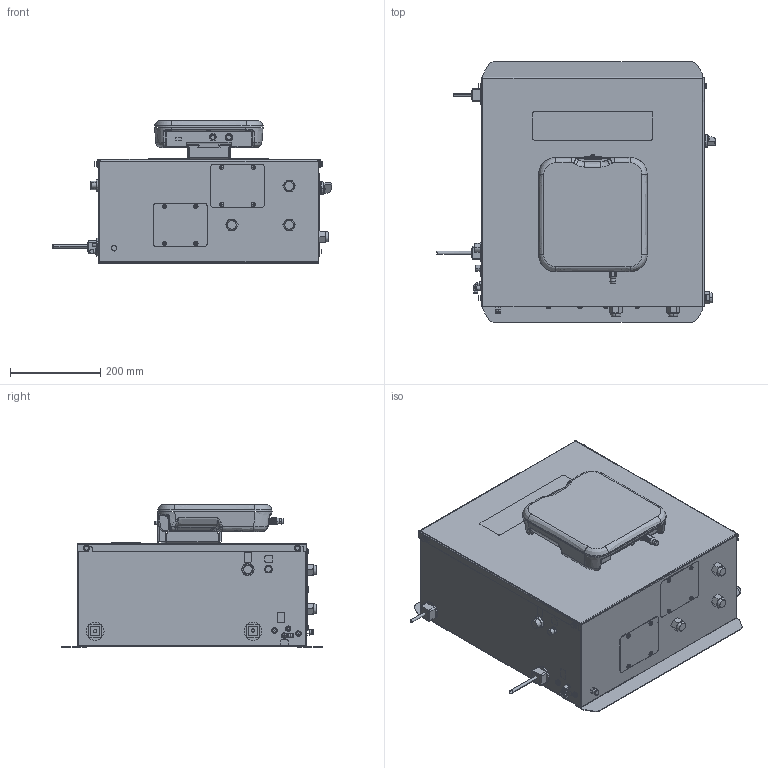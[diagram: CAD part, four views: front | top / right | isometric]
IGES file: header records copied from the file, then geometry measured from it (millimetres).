
Start section:  PTC IGES file: mc0500-en-j.igs
Global section: file name: mc0500-en-j.igs; native system: Creo Parametric by PTC Inc.; preprocessor: 2021072; author: qtmwp1; organization: Unknown; date: 20231107.144041; units: inch
Bounding box: 621.1 x 578.1 x 316.74 mm (x, y, z)
Surface area: 1685172.5 mm2 (no closed solid volume)
Topology: 0 solids, 0 shells, 914 faces, 4781 edges, 4779 vertices
Faces by surface type: bspline 496, revolution 418
